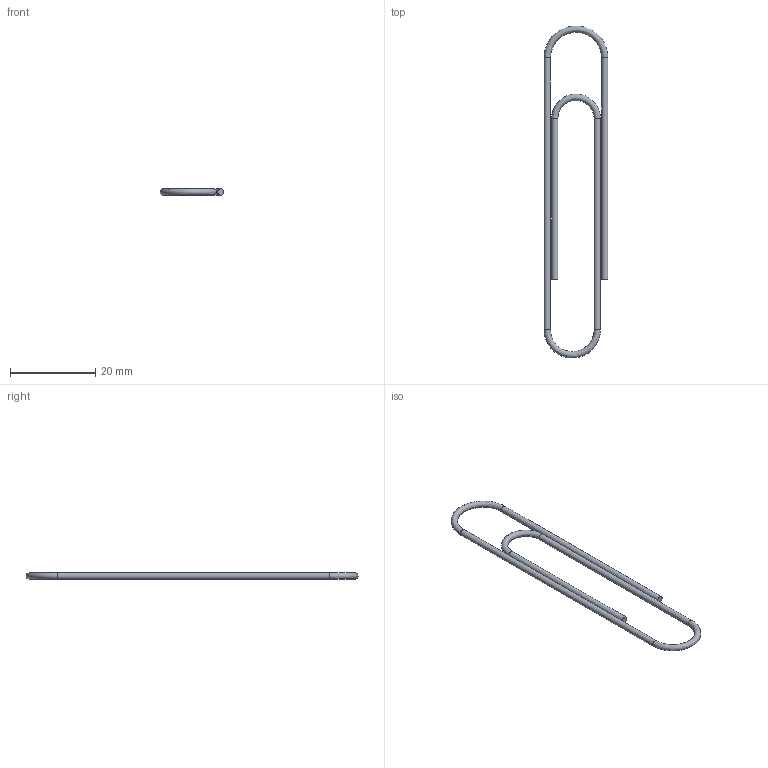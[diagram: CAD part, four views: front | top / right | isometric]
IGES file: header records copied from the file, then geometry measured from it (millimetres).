
Global section: file name: paperclip_big; native system: Autodesk Inventor 2023; preprocessor: unknown; author: Nebojsa; date: 20230430.215421; units: millimetre
Bounding box: 15 x 78 x 1.5 mm (x, y, z)
Volume: 466.3 mm3; surface area: 1223.2 mm2
Topology: 1 solids, 1 shells, 9 faces, 23 edges, 16 vertices
Faces by surface type: bspline 9
